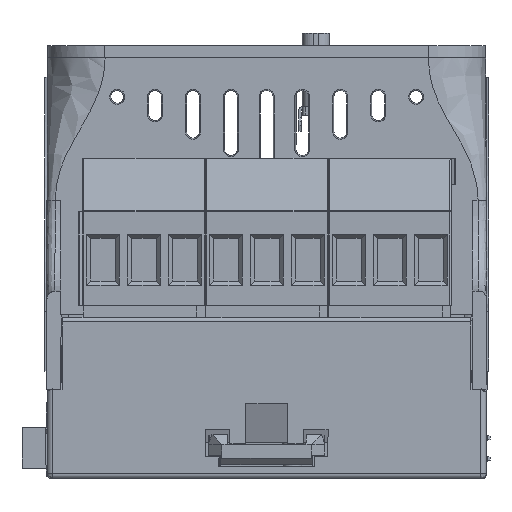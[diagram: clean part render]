
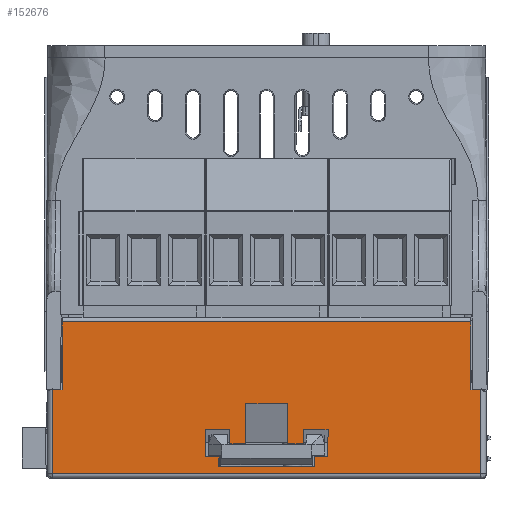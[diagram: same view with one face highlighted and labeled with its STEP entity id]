
A CAD part, front view. The second image highlights one B-rep face of the part: STEP entity #152676.
In plain terms, the highlighted planar face has unit normal (0, -1, 0).
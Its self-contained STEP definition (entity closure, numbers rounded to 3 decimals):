
#5463=FACE_BOUND('',#17251,.T.);
#9170=FACE_OUTER_BOUND('',#17250,.T.);
#17250=EDGE_LOOP('',(#110469,#110470,#110471,#110472,#110473,#110474,#110475,
#110476,#110477,#110478));
#17251=EDGE_LOOP('',(#110479,#110480,#110481,#110482,#110483,#110484,#110485,
#110486,#110487,#110488,#110489,#110490,#110491,#110492,#110493,#110494));
#29010=LINE('',#229898,#46772);
#29171=LINE('',#231804,#46933);
#29194=LINE('',#232046,#46956);
#29197=LINE('',#232057,#46959);
#29218=LINE('',#232109,#46980);
#29819=LINE('',#233520,#47581);
#29822=LINE('',#233525,#47584);
#29824=LINE('',#233529,#47586);
#29826=LINE('',#233533,#47588);
#29830=LINE('',#233539,#47592);
#29832=LINE('',#233543,#47594);
#29833=LINE('',#233546,#47595);
#29836=LINE('',#233551,#47598);
#29838=LINE('',#233555,#47600);
#29840=LINE('',#233559,#47602);
#29843=LINE('',#233564,#47605);
#29845=LINE('',#233568,#47607);
#29848=LINE('',#233573,#47610);
#29849=LINE('',#233576,#47611);
#29851=LINE('',#233580,#47613);
#29853=LINE('',#233583,#47615);
#29854=LINE('',#233586,#47616);
#30048=LINE('',#234092,#47810);
#30050=LINE('',#234095,#47812);
#30069=LINE('',#234139,#47831);
#30070=LINE('',#234141,#47832);
#46772=VECTOR('',#180269,1.);
#46933=VECTOR('',#180718,1.);
#46956=VECTOR('',#180781,1.);
#46959=VECTOR('',#180794,1.);
#46980=VECTOR('',#180831,1.);
#47581=VECTOR('',#182082,1.);
#47584=VECTOR('',#182087,1.);
#47586=VECTOR('',#182091,1.);
#47588=VECTOR('',#182095,1.);
#47592=VECTOR('',#182101,1.);
#47594=VECTOR('',#182105,1.);
#47595=VECTOR('',#182108,1.);
#47598=VECTOR('',#182113,1.);
#47600=VECTOR('',#182117,1.);
#47602=VECTOR('',#182121,1.);
#47605=VECTOR('',#182126,1.);
#47607=VECTOR('',#182130,1.);
#47610=VECTOR('',#182135,1.);
#47611=VECTOR('',#182138,1.);
#47613=VECTOR('',#182142,1.);
#47615=VECTOR('',#182146,1.);
#47616=VECTOR('',#182149,1.);
#47810=VECTOR('',#182631,1.);
#47812=VECTOR('',#182635,1.);
#47831=VECTOR('',#182682,1.);
#47832=VECTOR('',#182685,1.);
#62999=VERTEX_POINT('',#229114);
#63086=VERTEX_POINT('',#229896);
#63226=VERTEX_POINT('',#231801);
#63227=VERTEX_POINT('',#231803);
#63246=VERTEX_POINT('',#232044);
#63249=VERTEX_POINT('',#232056);
#63271=VERTEX_POINT('',#232106);
#63272=VERTEX_POINT('',#232108);
#63729=VERTEX_POINT('',#233427);
#63747=VERTEX_POINT('',#233517);
#63748=VERTEX_POINT('',#233519);
#63749=VERTEX_POINT('',#233523);
#63750=VERTEX_POINT('',#233527);
#63751=VERTEX_POINT('',#233532);
#63752=VERTEX_POINT('',#233537);
#63753=VERTEX_POINT('',#233541);
#63754=VERTEX_POINT('',#233545);
#63755=VERTEX_POINT('',#233550);
#63756=VERTEX_POINT('',#233554);
#63757=VERTEX_POINT('',#233558);
#63758=VERTEX_POINT('',#233563);
#63759=VERTEX_POINT('',#233567);
#63760=VERTEX_POINT('',#233571);
#63761=VERTEX_POINT('',#233575);
#63762=VERTEX_POINT('',#233579);
#63763=VERTEX_POINT('',#233585);
#79521=EDGE_CURVE('',#62999,#63086,#29010,.T.);
#79771=EDGE_CURVE('',#63227,#63226,#29171,.T.);
#79807=EDGE_CURVE('',#63086,#63246,#29194,.T.);
#79812=EDGE_CURVE('',#63249,#63227,#29197,.T.);
#79837=EDGE_CURVE('',#63272,#63271,#29218,.T.);
#80548=EDGE_CURVE('',#63748,#63747,#29819,.T.);
#80551=EDGE_CURVE('',#63749,#63748,#29822,.T.);
#80553=EDGE_CURVE('',#63749,#63750,#29824,.T.);
#80555=EDGE_CURVE('',#63750,#63751,#29826,.T.);
#80559=EDGE_CURVE('',#63752,#63751,#29830,.T.);
#80561=EDGE_CURVE('',#63752,#63753,#29832,.T.);
#80562=EDGE_CURVE('',#63754,#63753,#29833,.T.);
#80565=EDGE_CURVE('',#63754,#63755,#29836,.T.);
#80567=EDGE_CURVE('',#63756,#63755,#29838,.T.);
#80569=EDGE_CURVE('',#63756,#63757,#29840,.T.);
#80572=EDGE_CURVE('',#63757,#63758,#29843,.T.);
#80574=EDGE_CURVE('',#63759,#63758,#29845,.T.);
#80577=EDGE_CURVE('',#63760,#63759,#29848,.T.);
#80578=EDGE_CURVE('',#63761,#63760,#29849,.T.);
#80580=EDGE_CURVE('',#63762,#63761,#29851,.T.);
#80582=EDGE_CURVE('',#63747,#63762,#29853,.T.);
#80583=EDGE_CURVE('',#63763,#63729,#29854,.T.);
#80811=EDGE_CURVE('',#63729,#62999,#30048,.T.);
#80813=EDGE_CURVE('',#63246,#63272,#30050,.T.);
#80835=EDGE_CURVE('',#63249,#63271,#30069,.T.);
#80836=EDGE_CURVE('',#63226,#63763,#30070,.T.);
#110469=ORIENTED_EDGE('',*,*,#80836,.T.);
#110470=ORIENTED_EDGE('',*,*,#80583,.T.);
#110471=ORIENTED_EDGE('',*,*,#80811,.T.);
#110472=ORIENTED_EDGE('',*,*,#79521,.T.);
#110473=ORIENTED_EDGE('',*,*,#79807,.T.);
#110474=ORIENTED_EDGE('',*,*,#80813,.T.);
#110475=ORIENTED_EDGE('',*,*,#79837,.T.);
#110476=ORIENTED_EDGE('',*,*,#80835,.F.);
#110477=ORIENTED_EDGE('',*,*,#79812,.T.);
#110478=ORIENTED_EDGE('',*,*,#79771,.T.);
#110479=ORIENTED_EDGE('',*,*,#80582,.T.);
#110480=ORIENTED_EDGE('',*,*,#80580,.T.);
#110481=ORIENTED_EDGE('',*,*,#80578,.T.);
#110482=ORIENTED_EDGE('',*,*,#80577,.T.);
#110483=ORIENTED_EDGE('',*,*,#80574,.T.);
#110484=ORIENTED_EDGE('',*,*,#80572,.F.);
#110485=ORIENTED_EDGE('',*,*,#80569,.F.);
#110486=ORIENTED_EDGE('',*,*,#80567,.T.);
#110487=ORIENTED_EDGE('',*,*,#80565,.F.);
#110488=ORIENTED_EDGE('',*,*,#80562,.T.);
#110489=ORIENTED_EDGE('',*,*,#80561,.F.);
#110490=ORIENTED_EDGE('',*,*,#80559,.T.);
#110491=ORIENTED_EDGE('',*,*,#80555,.F.);
#110492=ORIENTED_EDGE('',*,*,#80553,.F.);
#110493=ORIENTED_EDGE('',*,*,#80551,.T.);
#110494=ORIENTED_EDGE('',*,*,#80548,.T.);
#139005=PLANE('',#161247);
#152676=ADVANCED_FACE('',(#9170,#5463),#139005,.F.);
#161247=AXIS2_PLACEMENT_3D('',#234140,#182683,#182684);
#180269=DIRECTION('',(-1.,0.,0.));
#180718=DIRECTION('',(-1.,0.,0.));
#180781=DIRECTION('',(-1.,0.,0.));
#180794=DIRECTION('',(-1.,0.,0.));
#180831=DIRECTION('',(-1.,0.,0.));
#182082=DIRECTION('',(1.,0.,0.));
#182087=DIRECTION('',(-0.009,0.,-1.));
#182091=DIRECTION('',(-1.,0.,0.009));
#182095=DIRECTION('',(0.009,0.,-1.));
#182101=DIRECTION('',(-1.,0.,0.));
#182105=DIRECTION('',(0.009,0.,-1.));
#182108=DIRECTION('',(-1.,0.,0.));
#182113=DIRECTION('',(0.009,0.,1.));
#182117=DIRECTION('',(-1.,0.,0.));
#182121=DIRECTION('',(0.009,0.,1.));
#182126=DIRECTION('',(-1.,0.,-0.009));
#182130=DIRECTION('',(-0.009,0.,1.));
#182135=DIRECTION('',(1.,0.,0.));
#182138=DIRECTION('',(0.,0.,-1.));
#182142=DIRECTION('',(1.,0.,0.));
#182146=DIRECTION('',(0.,0.,1.));
#182149=DIRECTION('',(1.,0.,0.));
#182631=DIRECTION('',(0.,0.,1.));
#182635=DIRECTION('',(0.,0.,1.));
#182682=DIRECTION('',(0.,0.,1.));
#182683=DIRECTION('center_axis',(0.,1.,0.));
#182684=DIRECTION('ref_axis',(0.,0.,
1.));
#182685=DIRECTION('',(0.,0.,-1.));
#229114=CARTESIAN_POINT('',(26.15,-44.644,4.871));
#229896=CARTESIAN_POINT('',(25.14,-44.644,4.871));
#229898=CARTESIAN_POINT('',(25.908,-44.644,4.871));
#231801=CARTESIAN_POINT('',(-26.15,-44.644,4.871));
#231803=CARTESIAN_POINT('',(-25.14,-44.644,4.871));
#231804=CARTESIAN_POINT('',(-25.908,-44.644,4.871));
#232044=CARTESIAN_POINT('',(24.941,-44.644,4.871));
#232046=CARTESIAN_POINT('',(25.908,-44.644,4.871));
#232056=CARTESIAN_POINT('',(-24.941,-44.644,4.871));
#232057=CARTESIAN_POINT('',(-25.908,-44.644,4.871));
#232106=CARTESIAN_POINT('',(-24.941,-44.644,13.156));
#232108=CARTESIAN_POINT('',(24.941,-44.644,13.156));
#232109=CARTESIAN_POINT('',(-38.979,-44.644,13.156));
#233427=CARTESIAN_POINT('',(26.15,-44.644,-5.4));
#233517=CARTESIAN_POINT('',(-2.55,-44.644,-1.725));
#233519=CARTESIAN_POINT('',(-4.498,-44.644,-1.725));
#233520=CARTESIAN_POINT('',(38.979,-44.644,-1.725));
#233523=CARTESIAN_POINT('',(-4.483,-44.644,-0.015));
#233525=CARTESIAN_POINT('',(-4.443,-44.644,4.558));
#233527=CARTESIAN_POINT('',(-7.496,-44.644,0.011));
#233529=CARTESIAN_POINT('',(-3.784,-44.644,-0.021));
#233532=CARTESIAN_POINT('',(-7.467,-44.644,-3.32));
#233533=CARTESIAN_POINT('',(-7.645,-44.644,17.1));
#233537=CARTESIAN_POINT('',(-5.867,-44.644,-3.32));
#233539=CARTESIAN_POINT('',(-3.728,-44.644,-3.32));
#233541=CARTESIAN_POINT('',(-5.857,-44.644,-4.5));
#233543=CARTESIAN_POINT('',(-5.855,-44.644,-4.646));
#233545=CARTESIAN_POINT('',(5.857,-44.644,-4.5));
#233546=CARTESIAN_POINT('',(-38.979,-44.644,-4.5));
#233550=CARTESIAN_POINT('',(5.867,-44.644,-3.32));
#233551=CARTESIAN_POINT('',(5.855,-44.644,-4.646));
#233554=CARTESIAN_POINT('',(7.467,-44.644,-3.32));
#233555=CARTESIAN_POINT('',(3.728,-44.644,-3.32));
#233558=CARTESIAN_POINT('',(7.496,-44.644,0.011));
#233559=CARTESIAN_POINT('',(7.645,-44.644,17.1));
#233563=CARTESIAN_POINT('',(4.483,-44.644,-0.015));
#233564=CARTESIAN_POINT('',(3.784,-44.644,-0.021));
#233567=CARTESIAN_POINT('',(4.498,-44.644,-1.725));
#233568=CARTESIAN_POINT('',(4.443,-44.644,4.558));
#233571=CARTESIAN_POINT('',(2.55,-44.644,-1.725));
#233573=CARTESIAN_POINT('',(-38.979,-44.644,-1.725));
#233575=CARTESIAN_POINT('',(2.55,-44.644,3.175));
#233576=CARTESIAN_POINT('',(2.55,-44.644,6.016));
#233579=CARTESIAN_POINT('',(-2.55,-44.644,3.175));
#233580=CARTESIAN_POINT('',(-38.979,-44.644,3.175));
#233583=CARTESIAN_POINT('',(-2.55,-44.644,6.016));
#233585=CARTESIAN_POINT('',(-26.15,-44.644,-5.4));
#233586=CARTESIAN_POINT('',(26.15,-44.644,-5.4));
#234092=CARTESIAN_POINT('',(26.15,-44.644,17.506));
#234095=CARTESIAN_POINT('',(24.941,-44.644,17.506));
#234139=CARTESIAN_POINT('',(-24.941,-44.644,17.506));
#234140=CARTESIAN_POINT('Origin',(-38.979,-44.644,17.506));
#234141=CARTESIAN_POINT('',(-26.15,-44.644,17.506));
